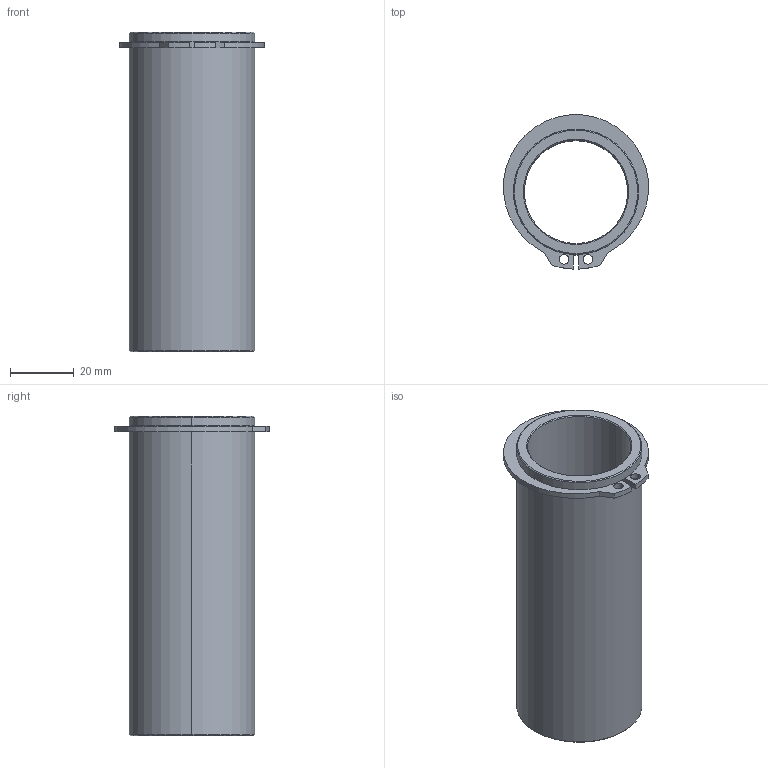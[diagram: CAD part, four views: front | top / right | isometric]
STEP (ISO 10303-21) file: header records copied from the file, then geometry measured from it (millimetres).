
FILE_DESCRIPTION((''),'2;1');
FILE_NAME('C13_032_100.stp','2008-12-17T15:09:51',(''),(''),'Mechanical Desktop 2009','Mechanical Desktop 2009',', , ');
FILE_SCHEMA(('CONFIG_CONTROL_DESIGN'));
Length unit declared in the file: millimetre
Products named in the file (2): Product; blmdl1
Assembly tree (1 placements, depth 2):
  Product
    blmdl1
Bounding box: 45.34 x 48.28 x 100 mm (x, y, z)
Volume: 39544.7 mm3; surface area: 25026 mm2
Topology: 2 solids, 2 shells, 34 faces, 76 edges, 48 vertices
Faces by surface type: cylinder 16, plane 10, cone 8
Entity records: 1075 total; most frequent: DIRECTION 188, CARTESIAN_POINT 160, ORIENTED_EDGE 152, AXIS2_PLACEMENT_3D 76, EDGE_CURVE 76, VERTEX_POINT 48, EDGE_LOOP 42, CIRCLE 40
